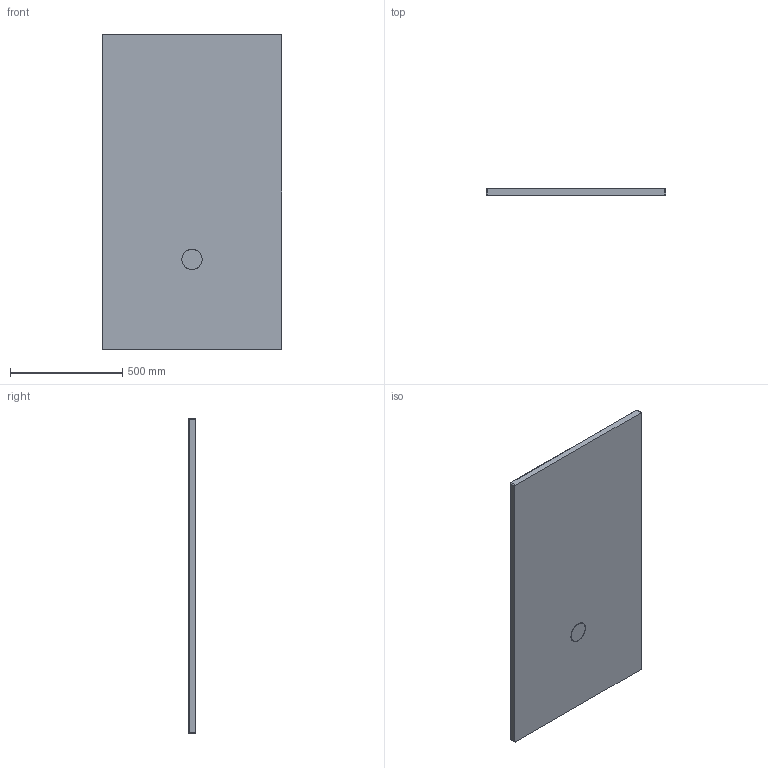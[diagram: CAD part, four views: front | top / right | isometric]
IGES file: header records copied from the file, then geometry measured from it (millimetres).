
Start section: SolidWorks IGES file using analytic representation for surfaces
Global section: file name: D:\Users\M.Szymanski\Desktop\Brodziki\Nias\B_M_NIAS_140x80x1,5.IGS; native system: SolidWorks 2011; preprocessor: SolidWorks 2011; author: M.Szymanski; date: 180222.142227; units: millimetre
Bounding box: 800 x 30 x 1400 mm (x, y, z)
Surface area: 2392480.5 mm2 (no closed solid volume)
Topology: 0 solids, 0 shells, 45 faces, 668 edges, 667 vertices
Faces by surface type: bspline 25, revolution 20
